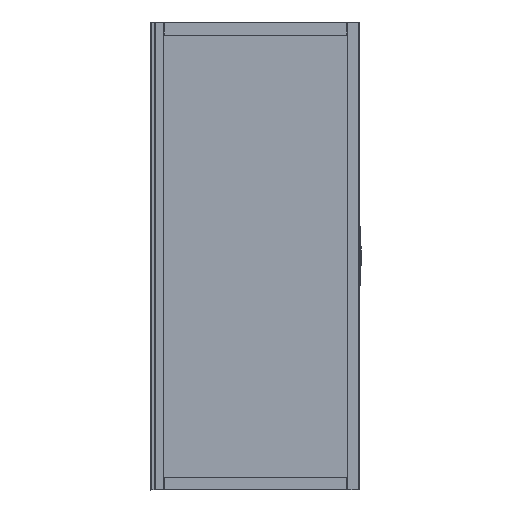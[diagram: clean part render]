
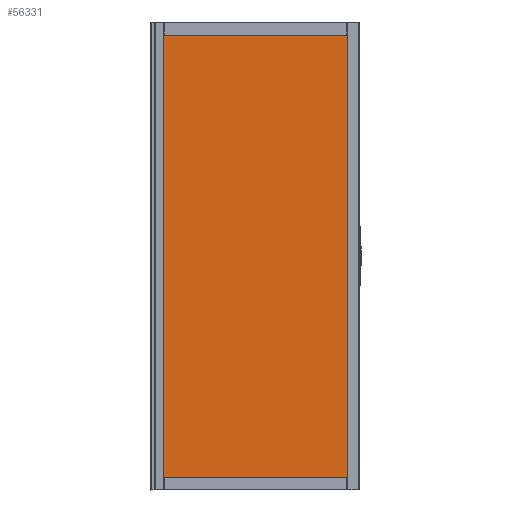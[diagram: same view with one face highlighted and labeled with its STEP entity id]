
A CAD part, front view. The second image highlights one B-rep face of the part: STEP entity #56331.
In plain terms, the highlighted planar face has unit normal (0, -1, 0).
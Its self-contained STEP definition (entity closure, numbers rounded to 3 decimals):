
#1442=LINE($,#81293,#6805);
#1447=LINE($,#81303,#6810);
#2708=LINE($,#87182,#8071);
#2712=LINE($,#87192,#8075);
#2728=LINE($,#87240,#8091);
#2733=LINE($,#87249,#8096);
#2734=LINE($,#87251,#8097);
#2735=LINE($,#87253,#8098);
#2736=LINE($,#87254,#8099);
#2737=LINE($,#87256,#8100);
#2738=LINE($,#87258,#8101);
#2739=LINE($,#87259,#8102);
#2740=LINE($,#87261,#8103);
#2741=LINE($,#87263,#8104);
#2742=LINE($,#87265,#8105);
#2743=LINE($,#87266,#8106);
#2744=LINE($,#87267,#8107);
#2745=LINE($,#87269,#8108);
#2746=LINE($,#87271,#8109);
#2747=LINE($,#87273,#8110);
#2748=LINE($,#87274,#8111);
#6805=VECTOR($,#65217,784.);
#6810=VECTOR($,#65224,7.);
#8071=VECTOR($,#68813,7.);
#8075=VECTOR($,#68819,0.446);
#8091=VECTOR($,#68861,7.);
#8096=VECTOR($,#68868,780.);
#8097=VECTOR($,#68869,0.446);
#8098=VECTOR($,#68870,780.);
#8099=VECTOR($,#68871,0.446);
#8100=VECTOR($,#68872,780.);
#8101=VECTOR($,#68873,780.);
#8102=VECTOR($,#68874,0.446);
#8103=VECTOR($,#68875,8.15);
#8104=VECTOR($,#68876,1.);
#8105=VECTOR($,#68877,1907.);
#8106=VECTOR($,#68878,8.15);
#8107=VECTOR($,#68879,784.);
#8108=VECTOR($,#68880,7.85);
#8109=VECTOR($,#68881,1908.);
#8110=VECTOR($,#68882,7.85);
#8111=VECTOR($,#68883,7.);
#12108=PLANE($,#60150);
#14252=FACE_BOUND($,#18404,.T.);
#14253=FACE_BOUND($,#18405,.T.);
#14254=FACE_BOUND($,#18406,.T.);
#18404=EDGE_LOOP($,(#41168,#41169,#41170,#41171));
#18405=EDGE_LOOP($,(#41172,#41173,#41174,#41175));
#18406=EDGE_LOOP($,(#41176,#41177,#41178,#41179,#41180,#41181,#41182,#41183,
#41184,#41185,#41186,#41187,#41188));
#23519=VERTEX_POINT($,#81290);
#23520=VERTEX_POINT($,#81292);
#23524=VERTEX_POINT($,#81301);
#24861=VERTEX_POINT($,#87179);
#24862=VERTEX_POINT($,#87181);
#24866=VERTEX_POINT($,#87189);
#24867=VERTEX_POINT($,#87191);
#24885=VERTEX_POINT($,#87238);
#24886=VERTEX_POINT($,#87239);
#24888=VERTEX_POINT($,#87247);
#24889=VERTEX_POINT($,#87248);
#24890=VERTEX_POINT($,#87250);
#24891=VERTEX_POINT($,#87252);
#24892=VERTEX_POINT($,#87255);
#24893=VERTEX_POINT($,#87257);
#24894=VERTEX_POINT($,#87260);
#24895=VERTEX_POINT($,#87262);
#24896=VERTEX_POINT($,#87264);
#24897=VERTEX_POINT($,#87268);
#24898=VERTEX_POINT($,#87270);
#24899=VERTEX_POINT($,#87272);
#29015=EDGE_CURVE($,#23519,#23520,#1442,.T.);
#29020=EDGE_CURVE($,#23524,#23519,#1447,.T.);
#30993=EDGE_CURVE($,#24861,#24862,#2708,.T.);
#30998=EDGE_CURVE($,#24867,#24866,#2712,.T.);
#31023=EDGE_CURVE($,#24885,#24886,#2728,.T.);
#31028=EDGE_CURVE($,#24888,#24889,#2733,.T.);
#31029=EDGE_CURVE($,#24889,#24890,#2734,.T.);
#31030=EDGE_CURVE($,#24890,#24891,#2735,.T.);
#31031=EDGE_CURVE($,#24891,#24888,#2736,.T.);
#31032=EDGE_CURVE($,#24892,#24867,#2737,.T.);
#31033=EDGE_CURVE($,#24866,#24893,#2738,.T.);
#31034=EDGE_CURVE($,#24893,#24892,#2739,.T.);
#31035=EDGE_CURVE($,#23524,#24894,#2740,.T.);
#31036=EDGE_CURVE($,#24894,#24895,#2741,.T.);
#31037=EDGE_CURVE($,#24895,#24896,#2742,.T.);
#31038=EDGE_CURVE($,#24896,#24886,#2743,.T.);
#31039=EDGE_CURVE($,#24862,#24885,#2744,.T.);
#31040=EDGE_CURVE($,#24861,#24897,#2745,.T.);
#31041=EDGE_CURVE($,#24897,#24898,#2746,.T.);
#31042=EDGE_CURVE($,#24898,#24899,#2747,.T.);
#31043=EDGE_CURVE($,#23520,#24899,#2748,.T.);
#41168=ORIENTED_EDGE($,*,*,#31028,.T.);
#41169=ORIENTED_EDGE($,*,*,#31029,.T.);
#41170=ORIENTED_EDGE($,*,*,#31030,.T.);
#41171=ORIENTED_EDGE($,*,*,#31031,.T.);
#41172=ORIENTED_EDGE($,*,*,#31032,.T.);
#41173=ORIENTED_EDGE($,*,*,#30998,.T.);
#41174=ORIENTED_EDGE($,*,*,#31033,.T.);
#41175=ORIENTED_EDGE($,*,*,#31034,.T.);
#41176=ORIENTED_EDGE($,*,*,#29020,.F.);
#41177=ORIENTED_EDGE($,*,*,#31035,.T.);
#41178=ORIENTED_EDGE($,*,*,#31036,.T.);
#41179=ORIENTED_EDGE($,*,*,#31037,.T.);
#41180=ORIENTED_EDGE($,*,*,#31038,.T.);
#41181=ORIENTED_EDGE($,*,*,#31023,.F.);
#41182=ORIENTED_EDGE($,*,*,#31039,.F.);
#41183=ORIENTED_EDGE($,*,*,#30993,.F.);
#41184=ORIENTED_EDGE($,*,*,#31040,.T.);
#41185=ORIENTED_EDGE($,*,*,#31041,.T.);
#41186=ORIENTED_EDGE($,*,*,#31042,.T.);
#41187=ORIENTED_EDGE($,*,*,#31043,.F.);
#41188=ORIENTED_EDGE($,*,*,#29015,.F.);
#56331=ADVANCED_FACE($,(#14252,#14253,#14254),#12108,.T.);
#60150=AXIS2_PLACEMENT_3D($,#87246,#68866,#68867);
#65217=DIRECTION($,(-1.,0.,0.));
#65224=DIRECTION($,(0.,0.,1.));
#68813=DIRECTION($,(0.,0.,-1.));
#68819=DIRECTION($,(0.,0.,1.));
#68861=DIRECTION($,(0.,0.,1.));
#68866=DIRECTION('center_axis',(0.,-1.,0.));
#68867=DIRECTION('ref_axis',(1.,0.,0.));
#68868=DIRECTION($,(1.,0.,0.));
#68869=DIRECTION($,(0.,0.,-1.));
#68870=DIRECTION($,(-1.,0.,0.));
#68871=DIRECTION($,(0.,0.,1.));
#68872=DIRECTION($,(-1.,0.,0.));
#68873=DIRECTION($,(1.,0.,0.));
#68874=DIRECTION($,(0.,0.,-1.));
#68875=DIRECTION($,(1.,0.,0.));
#68876=DIRECTION($,(0.,0.,1.));
#68877=DIRECTION($,(0.,0.,1.));
#68878=DIRECTION($,(-1.,0.,0.));
#68879=DIRECTION($,(1.,0.,0.));
#68880=DIRECTION($,(-1.,0.,0.));
#68881=DIRECTION($,(0.,0.,-1.));
#68882=DIRECTION($,(1.,0.,0.));
#68883=DIRECTION($,(0.,0.,-1.));
#81290=CARTESIAN_POINT('',(499.775,-933.159,1007.14));
#81292=CARTESIAN_POINT('',(-284.225,-933.159,1007.14));
#81293=CARTESIAN_POINT($,(203.85,-933.159,1007.14));
#81301=CARTESIAN_POINT('',(499.775,-933.159,1000.14));
#81303=CARTESIAN_POINT($,(499.775,-933.159,1706.465));
#87179=CARTESIAN_POINT('',(-284.225,-933.159,2908.14));
#87181=CARTESIAN_POINT('',(-284.225,-933.159,2901.14));
#87182=CARTESIAN_POINT($,(-284.225,-933.159,2678.815));
#87189=CARTESIAN_POINT('',(-284.225,-933.159,2900.013));
#87191=CARTESIAN_POINT('',(-284.225,-933.159,2899.567));
#87192=CARTESIAN_POINT($,(-284.225,-933.159,2668.256));
#87238=CARTESIAN_POINT('',(499.775,-933.159,2901.14));
#87239=CARTESIAN_POINT('',(499.775,-933.159,2908.14));
#87240=CARTESIAN_POINT($,(499.775,-933.159,2678.815));
#87246=CARTESIAN_POINT('Origin',(-92.075,-933.159,2431.14));
#87247=CARTESIAN_POINT('',(-284.225,-933.159,1008.713));
#87248=CARTESIAN_POINT('',(495.775,-933.159,1008.713));
#87249=CARTESIAN_POINT($,(-284.225,-933.159,1008.713));
#87250=CARTESIAN_POINT('',(495.775,-933.159,1008.266));
#87251=CARTESIAN_POINT($,(495.775,-933.159,1717.023));
#87252=CARTESIAN_POINT('',(-284.225,-933.159,1008.266));
#87253=CARTESIAN_POINT($,(-284.225,-933.159,1008.266));
#87254=CARTESIAN_POINT($,(-284.225,-933.159,1717.023));
#87255=CARTESIAN_POINT('',(495.775,-933.159,2899.567));
#87256=CARTESIAN_POINT($,(495.775,-933.159,2899.567));
#87257=CARTESIAN_POINT('',(495.775,-933.159,2900.013));
#87258=CARTESIAN_POINT($,(495.775,-933.159,2900.013));
#87259=CARTESIAN_POINT($,(495.775,-933.159,2668.256));
#87260=CARTESIAN_POINT('',(507.925,-933.159,1000.14));
#87261=CARTESIAN_POINT($,(-292.075,-933.159,1000.14));
#87262=CARTESIAN_POINT('',(507.925,-933.159,1001.14));
#87263=CARTESIAN_POINT($,(507.925,-933.159,1000.14));
#87264=CARTESIAN_POINT('',(507.925,-933.159,2908.14));
#87265=CARTESIAN_POINT($,(507.925,-933.159,1000.14));
#87266=CARTESIAN_POINT($,(507.925,-933.159,2908.14));
#87267=CARTESIAN_POINT($,(-188.15,-933.159,2901.14));
#87268=CARTESIAN_POINT('',(-292.075,-933.159,2908.14));
#87269=CARTESIAN_POINT($,(507.925,-933.159,2908.14));
#87270=CARTESIAN_POINT('',(-292.075,-933.159,1000.14));
#87271=CARTESIAN_POINT($,(-292.075,-933.159,2908.14));
#87272=CARTESIAN_POINT('',(-284.225,-933.159,1000.14));
#87273=CARTESIAN_POINT($,(-292.075,-933.159,1000.14));
#87274=CARTESIAN_POINT($,(-284.225,-933.159,1706.465));
